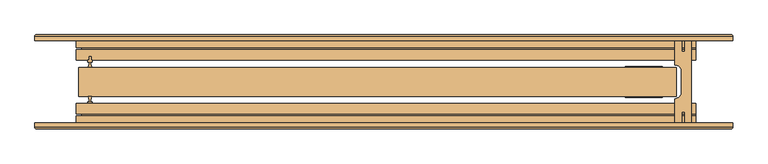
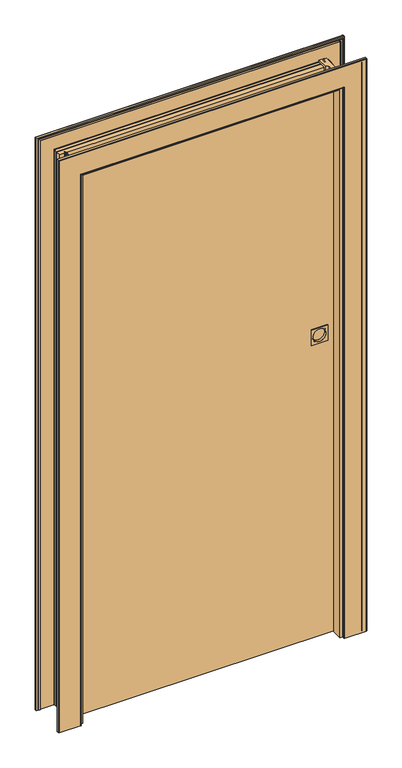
"""IFC4 building model written with IfcOpenShell, lengths in millimetres: door geometry, DoorInternal_Barausse_Feel Plus Sliding wall-125+x : Int_Door_Barausse_Feel-Plus-Sliding_900x2000_Wall-125+x."""

from ifc_helpers import new_model, si_unit, point, frame, frame_2d, origin, origin_with_axes, place, context, project, spatial, polyline, circle_curve, ellipse_curve, trimmed, segment, composite_curve, outline, extrude, faceted_brep, source, transform, mapped, element, save
from ifc_brep_helpers import plane_surface, cylinder_surface, revolved_surface, advanced_brep


def door_cd230160(model_context):
    return source(origin(), model_context, "Body", "SolidModel", [
        advanced_brep(
        [(375.219, -23.7, 1100.0), (419.719, -23.7, 1100.0), (419.719, -14.7, 1100.0), (375.219, -14.7, 1100.0), (373.719, -22.2, 1100.0), (421.219, -22.2, 1100.0), (421.219, -11.7, 1100.0), (373.719, -11.7, 1100.0), (375.219, -13.2, 1100.0), (419.719, -13.2, 1100.0), (419.719, -11.7, 1100.0), (375.219, -11.7, 1100.0), (425.719, -22.2, 1071.75), (369.219, -22.2, 1071.75), (369.219, -22.2, 1128.25), (425.719, -22.2, 1128.25), (369.219, -23.7, 1071.75), (369.219, -23.7, 1128.25), (425.719, -23.7, 1128.25), (425.719, -23.7, 1071.75)],
        [
            (0, 1, circle_curve(frame((397.469, -23.7, 1100.0), z_axis=(0.0, -1.0, 0.0), x_axis=(-1.0, 0.0, 0.0)), 22.25)),
            (1, 2),
            (2, 3, circle_curve(frame((397.469, -14.7, 1100.0), z_axis=(0.0, 1.0, 0.0), x_axis=(-1.0, 0.0, 0.0)), 22.25)),
            (3, 0),
            (4, 5, circle_curve(frame((397.469, -22.2, 1100.0), z_axis=(0.0, 1.0, 0.0), x_axis=(-1.0, 0.0, 0.0)), 23.75)),
            (5, 6),
            (6, 7, circle_curve(frame((397.469, -11.7, 1100.0), z_axis=(0.0, -1.0, 0.0), x_axis=(-1.0, 0.0, 0.0)), 23.75)),
            (7, 4),
            (8, 9, circle_curve(frame((397.469, -13.2, 1100.0), z_axis=(0.0, -1.0, 0.0), x_axis=(-1.0, 0.0, 0.0)), 22.25)),
            (9, 10),
            (10, 11, circle_curve(frame((397.469, -11.7, 1100.0), z_axis=(0.0, 1.0, 0.0), x_axis=(-1.0, 0.0, 0.0)), 22.25)),
            (11, 8),
            (8, 9, circle_curve(frame((397.469, -13.2, 1100.0), z_axis=(0.0, 1.0, 0.0), x_axis=(-1.0, 0.0, 0.0)), 22.25)),
            (11, 10, circle_curve(frame((397.469, -11.7, 1100.0), z_axis=(0.0, 1.0, 0.0), x_axis=(-1.0, 0.0, 0.0)), 22.25)),
            (6, 7, circle_curve(frame((397.469, -11.7, 1100.0), z_axis=(0.0, 1.0, 0.0), x_axis=(-1.0, 0.0, 0.0)), 23.75)),
            (5, 4, circle_curve(frame((397.469, -22.2, 1100.0), z_axis=(0.0, 1.0, 0.0), x_axis=(-1.0, 0.0, 0.0)), 23.75)),
            (12, 13),
            (13, 14),
            (14, 15),
            (15, 12),
            (16, 17),
            (17, 14),
            (13, 16),
            (17, 18),
            (18, 15),
            (18, 19),
            (19, 12),
            (19, 16),
            (2, 3, circle_curve(frame((397.469, -14.7, 1100.0), z_axis=(0.0, -1.0, 0.0), x_axis=(-1.0, 0.0, 0.0)), 22.25)),
            (1, 0, circle_curve(frame((397.469, -23.7, 1100.0), z_axis=(0.0, -1.0, 0.0), x_axis=(-1.0, 0.0, 0.0)), 22.25)),
        ],
        [
            revolved_surface(polyline([(375.219, -14.7, 1100.0), (375.219, -23.7, 1100.0)]), (397.469, -13.2, 1100.0), (0.0, 1.0, 0.0)),
            cylinder_surface(frame((397.469, -13.2, 1100.0), z_axis=(0.0, 1.0, 0.0), x_axis=(-1.0, 0.0, 0.0)), 23.75),
            revolved_surface(polyline([(375.219, -11.7, 1100.0), (375.219, -13.2, 1100.0)]), (397.469, -13.2, 1100.0), (0.0, 1.0, 0.0)),
            plane_surface(frame((397.469, -13.2, 1100.0), z_axis=(0.0, 1.0, 0.0), x_axis=(-1.0, 0.0, 0.0))),
            plane_surface(frame((373.719, -11.7, 1100.0), z_axis=(0.0, 1.0, 0.0), x_axis=(-1.0, 0.0, 0.0))),
            plane_surface(frame((369.219, -22.2, 1100.0), z_axis=(0.0, 1.0, 0.0), x_axis=(-1.0, 0.0, 0.0))),
            plane_surface(frame((369.219, 57.7030663, 1071.75), z_axis=(-1.0, 0.0, 0.0), x_axis=(0.0, -1.0, 0.0))),
            plane_surface(frame((425.719, 57.7030663, 1128.25), z_axis=(0.0, 0.0, 1.0), x_axis=(0.0, 1.0, 0.0))),
            plane_surface(frame((425.719, 57.7030663, 1071.75), z_axis=(1.0, 0.0, 0.0), x_axis=(0.0, 1.0, 0.0))),
            plane_surface(frame((425.719, 57.7030663, 1071.75), z_axis=(0.0, 0.0, -1.0), x_axis=(0.0, -1.0, 0.0))),
            plane_surface(frame((397.469, -14.7, 1100.0), z_axis=(0.0, -1.0, 0.0), x_axis=(1.0, 0.0, 0.0))),
            plane_surface(frame((375.219, -23.7, 1100.0), z_axis=(0.0, -1.0, 0.0), x_axis=(1.0, 0.0, 0.0))),
        ],
        [
            (0, [[1, 2, 3, 4]]),
            (1, [[5, 6, 7, 8]]),
            (2, [[9, 10, 11, 12]]),
            (3, [[13, -9]]),
            (2, [[-10, -13, -12, 14]]),
            (4, [[-7, 15], [-14, -11]]),
            (1, [[-6, 16, -8, -15]]),
            (5, [[17, 18, 19, 20], [-5, -16]]),
            (6, [[21, 22, -18, 23]]),
            (7, [[24, 25, -19, -22]]),
            (8, [[-25, 26, 27, -20]]),
            (9, [[28, -23, -17, -27]]),
            (10, [[29, -3]]),
            (0, [[-2, 30, -4, -29]]),
            (11, [[-26, -24, -21, -28], [-30, -1]]),
        ],
    ),
        advanced_brep(
        [(419.719, 23.7, 1100.0), (375.219, 23.7, 1100.0), (375.219, 14.7, 1100.0), (419.719, 14.7, 1100.0), (421.219, 22.2, 1100.0), (373.719, 22.2, 1100.0), (373.719, 11.7, 1100.0), (421.219, 11.7, 1100.0), (419.719, 13.2, 1100.0), (375.219, 13.2, 1100.0), (375.219, 11.7, 1100.0), (419.719, 11.7, 1100.0), (369.219, 22.2, 1071.75), (425.719, 22.2, 1071.75), (425.719, 22.2, 1128.25), (369.219, 22.2, 1128.25), (425.719, 23.7, 1071.75), (425.719, 23.7, 1128.25), (369.219, 23.7, 1128.25), (369.219, 23.7, 1071.75)],
        [
            (0, 1, circle_curve(frame((397.469, 23.7, 1100.0), z_axis=(0.0, 1.0, 0.0), x_axis=(1.0, 0.0, 0.0)), 22.25)),
            (1, 2),
            (2, 3, circle_curve(frame((397.469, 14.7, 1100.0), z_axis=(0.0, -1.0, 0.0), x_axis=(1.0, 0.0, 0.0)), 22.25)),
            (3, 0),
            (4, 5, circle_curve(frame((397.469, 22.2, 1100.0), z_axis=(0.0, -1.0, 0.0), x_axis=(1.0, 0.0, 0.0)), 23.75)),
            (5, 6),
            (6, 7, circle_curve(frame((397.469, 11.7, 1100.0), z_axis=(0.0, 1.0, 0.0), x_axis=(1.0, 0.0, 0.0)), 23.75)),
            (7, 4),
            (8, 9, circle_curve(frame((397.469, 13.2, 1100.0), z_axis=(0.0, 1.0, 0.0), x_axis=(1.0, 0.0, 0.0)), 22.25)),
            (9, 10),
            (10, 11, circle_curve(frame((397.469, 11.7, 1100.0), z_axis=(0.0, -1.0, 0.0), x_axis=(1.0, 0.0, 0.0)), 22.25)),
            (11, 8),
            (8, 9, circle_curve(frame((397.469, 13.2, 1100.0), z_axis=(0.0, -1.0, 0.0), x_axis=(1.0, 0.0, 0.0)), 22.25)),
            (11, 10, circle_curve(frame((397.469, 11.7, 1100.0), z_axis=(0.0, -1.0, 0.0), x_axis=(1.0, 0.0, 0.0)), 22.25)),
            (6, 7, circle_curve(frame((397.469, 11.7, 1100.0), z_axis=(0.0, -1.0, 0.0), x_axis=(1.0, 0.0, 0.0)), 23.75)),
            (5, 4, circle_curve(frame((397.469, 22.2, 1100.0), z_axis=(0.0, -1.0, 0.0), x_axis=(1.0, 0.0, 0.0)), 23.75)),
            (12, 13),
            (13, 14),
            (14, 15),
            (15, 12),
            (16, 17),
            (17, 14),
            (13, 16),
            (17, 18),
            (18, 15),
            (18, 19),
            (19, 12),
            (19, 16),
            (2, 3, circle_curve(frame((397.469, 14.7, 1100.0), z_axis=(0.0, 1.0, 0.0), x_axis=(1.0, 0.0, 0.0)), 22.25)),
            (1, 0, circle_curve(frame((397.469, 23.7, 1100.0), z_axis=(0.0, 1.0, 0.0), x_axis=(1.0, 0.0, 0.0)), 22.25)),
        ],
        [
            revolved_surface(polyline([(419.719, 14.7, 1100.0), (419.719, 23.7, 1100.0)]), (397.469, 13.2, 1100.0), (0.0, -1.0, 0.0)),
            cylinder_surface(frame((397.469, 13.2, 1100.0), z_axis=(0.0, -1.0, 0.0), x_axis=(1.0, 0.0, 0.0)), 23.75),
            revolved_surface(polyline([(419.719, 11.7, 1100.0), (419.719, 13.2, 1100.0)]), (397.469, 13.2, 1100.0), (0.0, -1.0, 0.0)),
            plane_surface(frame((397.469, 13.2, 1100.0), z_axis=(0.0, -1.0, 0.0), x_axis=(1.0, 0.0, 0.0))),
            plane_surface(frame((421.219, 11.7, 1100.0), z_axis=(0.0, -1.0, 0.0), x_axis=(1.0, 0.0, 0.0))),
            plane_surface(frame((425.719, 22.2, 1100.0), z_axis=(0.0, -1.0, 0.0), x_axis=(1.0, 0.0, 0.0))),
            plane_surface(frame((425.719, -57.7030663, 1071.75), z_axis=(1.0, 0.0, 0.0), x_axis=(0.0, 1.0, 0.0))),
            plane_surface(frame((369.219, -57.7030663, 1128.25), z_axis=(0.0, 0.0, 1.0), x_axis=(0.0, -1.0, 0.0))),
            plane_surface(frame((369.219, -57.7030663, 1071.75), z_axis=(-1.0, 0.0, 0.0), x_axis=(0.0, -1.0, 0.0))),
            plane_surface(frame((369.219, -57.7030663, 1071.75), z_axis=(0.0, 0.0, -1.0), x_axis=(0.0, 1.0, 0.0))),
            plane_surface(frame((397.469, 14.7, 1100.0), z_axis=(0.0, 1.0, 0.0), x_axis=(-1.0, 0.0, 0.0))),
            plane_surface(frame((419.719, 23.7, 1100.0), z_axis=(0.0, 1.0, 0.0), x_axis=(-1.0, 0.0, 0.0))),
        ],
        [
            (0, [[1, 2, 3, 4]]),
            (1, [[5, 6, 7, 8]]),
            (2, [[9, 10, 11, 12]]),
            (3, [[13, -9]]),
            (2, [[-10, -13, -12, 14]]),
            (4, [[-7, 15], [-14, -11]]),
            (1, [[-6, 16, -8, -15]]),
            (5, [[17, 18, 19, 20], [-5, -16]]),
            (6, [[21, 22, -18, 23]]),
            (7, [[24, 25, -19, -22]]),
            (8, [[-25, 26, 27, -20]]),
            (9, [[28, -23, -17, -27]]),
            (10, [[29, -3]]),
            (0, [[-2, 30, -4, -29]]),
            (11, [[-26, -24, -21, -28], [-30, -1]]),
        ],
    ),
        extrude(outline(polyline([(-450.35, -39.0000026), (-450.35, -33.0000026), (-452.35, -33.0000026), (-452.35, -30.5000026), (-449.1657895, -30.5000026), (-451.6289478, -22.7000013), (-446.0710522, -22.7000013), (-448.5342105, -30.5000026), (-445.35, -30.5000026), (-445.35, -33.0000026), (-447.35, -33.0000026), (-447.35, -39.0000026), (-450.35, -39.0000026)])), origin_with_axes(), (0.0, 0.0, 1.0), 2003.5),
        extrude(outline(polyline([(-447.35, 39.0), (-447.35, 33.0), (-445.35, 33.0), (-445.35, 30.5), (-448.5342105, 30.5), (-446.0710522, 22.6999987), (-451.6289478, 22.6999987), (-449.1657895, 30.5), (-452.35, 30.5), (-452.35, 33.0), (-450.35, 33.0), (-450.35, 39.0), (-447.35, 39.0)])), origin_with_axes(), (0.0, 0.0, 1.0), 2028.5),
        advanced_brep(
        [(-531.1764934, -71.778125, 0.0), (-533.1764934, -69.778125, 0.0), (-533.1764934, -62.578125, 0.0), (-529.1764934, -62.578125, 0.0), (-529.1764934, -65.078125, 0.0), (-525.3764934, -65.078125, 0.0), (-525.3764934, -62.578125, 0.0), (-520.1764934, -62.578125, 0.0), (-519.1764934, -63.578125, 0.0), (-472.1764934, -63.578125, 0.0), (-471.1764934, -62.578125, 0.0), (-459.1764934, -62.578125, 0.0), (-459.1764934, -57.5000026, 0.0), (-455.1764934, -57.5000026, 0.0), (-455.1764934, -69.778125, 0.0), (-457.1764934, -71.778125, 0.0), (-531.1764934, -71.778125, 2089.8264934), (-533.1764934, -69.778125, 2091.8264934), (-533.1764934, -62.578125, 2091.8264934), (533.1764934, -62.578125, 2091.8264934), (533.1764934, -62.578125, 0.0), (529.1764934, -62.578125, 0.0), (529.1764934, -62.578125, 2087.8264934), (-529.1764934, -62.578125, 2087.8264934), (-529.1764934, -65.078125, 2087.8264934), (529.1764934, -65.078125, 2087.8264934), (529.1764934, -65.078125, 0.0), (525.3764934, -65.078125, 0.0), (525.3764934, -65.078125, 2084.0264934), (-525.3764934, -65.078125, 2084.0264934), (-525.3764934, -62.578125, 2084.0264934), (525.3764934, -62.578125, 2084.0264934), (525.3764934, -62.578125, 0.0), (520.1764934, -62.578125, 0.0), (520.1764934, -62.578125, 2078.8264934), (-520.1764934, -62.578125, 2078.8264934), (-519.1764934, -63.578125, 2077.8264934), (519.1764934, -63.578125, 2077.8264934), (519.1764934, -63.578125, 0.0), (472.1764934, -63.578125, 0.0), (472.1764934, -63.578125, 2030.8264934), (-472.1764934, -63.578125, 2030.8264934), (-471.1764934, -62.578125, 2029.8264934), (471.1764934, -62.578125, 2029.8264934), (471.1764934, -62.578125, 0.0), (459.1764934, -62.578125, 0.0), (459.1764934, -62.578125, 2017.8264934), (-459.1764934, -62.578125, 2017.8264934), (-459.1764934, -57.5000026, 2017.8264934), (459.1764934, -57.5000026, 2017.8264934), (459.1764934, -57.5000026, 0.0), (455.1764934, -57.5000026, 0.0), (455.1764934, -57.5000026, 2013.8264934), (-455.1764934, -57.5000026, 2013.8264934), (-455.1764934, -69.778125, 2013.8264934), (-457.1764934, -71.778125, 2015.8264934), (457.1764934, -71.778125, 2015.8264934), (457.1764934, -71.778125, 0.0), (531.1764934, -71.778125, 0.0), (531.1764934, -71.778125, 2089.8264934), (533.1764934, -69.778125, 2091.8264934), (533.1764934, -69.778125, 0.0), (455.1764934, -69.778125, 0.0), (455.1764934, -69.778125, 2013.8264934)],
        [
            (0, 1, circle_curve(frame((-531.1764934, -69.778125, 0.0), z_axis=(0.0, 0.0, -1.0), x_axis=(0.0, -1.0, 0.0)), 2.0)),
            (1, 2),
            (2, 3),
            (3, 4),
            (4, 5),
            (5, 6),
            (6, 7),
            (7, 8, circle_curve(frame((-519.1764934, -62.578125, 0.0), z_axis=(0.0, 0.0, 1.0), x_axis=(0.0, -1.0, 0.0)), 1.0)),
            (8, 9),
            (9, 10, circle_curve(frame((-472.1764934, -62.578125, 0.0), z_axis=(0.0, 0.0, 1.0), x_axis=(0.0, -1.0, 0.0)), 1.0)),
            (10, 11),
            (11, 12),
            (12, 13),
            (13, 14),
            (14, 15, circle_curve(frame((-457.1764934, -69.778125, 0.0), z_axis=(0.0, 0.0, -1.0), x_axis=(0.0, -1.0, 0.0)), 2.0)),
            (15, 0),
            (0, 16),
            (16, 17, ellipse_curve(frame((-531.1764934, -69.778125, 2089.8264934), z_axis=(-0.7071067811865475, 0.0, -0.7071067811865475), x_axis=(0.7071067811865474, 0.0, -0.7071067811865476)), 2.8284271, 2.0)),
            (17, 1),
            (17, 18),
            (18, 2),
            (18, 19),
            (19, 20),
            (20, 21),
            (21, 22),
            (22, 23),
            (23, 3),
            (23, 24),
            (24, 4),
            (24, 25),
            (25, 26),
            (26, 27),
            (27, 28),
            (28, 29),
            (29, 5),
            (29, 30),
            (30, 6),
            (30, 31),
            (31, 32),
            (32, 33),
            (33, 34),
            (34, 35),
            (35, 7),
            (35, 36, ellipse_curve(frame((-519.1764934, -62.578125, 2077.8264934), z_axis=(0.7071067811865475, 0.0, 0.7071067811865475), x_axis=(-0.7071067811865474, 0.0, 0.7071067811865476)), 1.4142136, 1.0)),
            (36, 8),
            (36, 37),
            (37, 38),
            (38, 39),
            (39, 40),
            (40, 41),
            (41, 9),
            (41, 42, ellipse_curve(frame((-472.1764934, -62.578125, 2030.8264934), z_axis=(0.7071067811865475, 0.0, 0.7071067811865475), x_axis=(-0.7071067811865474, 0.0, 0.7071067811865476)), 1.4142136, 1.0)),
            (42, 10),
            (42, 43),
            (43, 44),
            (44, 45),
            (45, 46),
            (46, 47),
            (47, 11),
            (47, 48),
            (48, 12),
            (48, 49),
            (49, 50),
            (50, 51),
            (51, 52),
            (52, 53),
            (53, 13),
            (53, 54),
            (54, 14),
            (54, 55, ellipse_curve(frame((-457.1764934, -69.778125, 2015.8264934), z_axis=(-0.7071067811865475, 0.0, -0.7071067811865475), x_axis=(0.7071067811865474, 0.0, -0.7071067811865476)), 2.8284271, 2.0)),
            (55, 15),
            (55, 56),
            (56, 57),
            (57, 58),
            (58, 59),
            (59, 16),
            (19, 60),
            (60, 61),
            (61, 20),
            (57, 62, circle_curve(frame((457.1764934, -69.778125, 0.0), z_axis=(0.0, 0.0, -1.0), x_axis=(0.0, -1.0, 0.0)), 2.0)),
            (62, 51),
            (50, 45),
            (44, 39, circle_curve(frame((472.1764934, -62.578125, 0.0), z_axis=(0.0, 0.0, 1.0), x_axis=(0.0, -1.0, 0.0)), 1.0)),
            (38, 33, circle_curve(frame((519.1764934, -62.578125, 0.0), z_axis=(0.0, 0.0, 1.0), x_axis=(0.0, -1.0, 0.0)), 1.0)),
            (32, 27),
            (26, 21),
            (61, 58, circle_curve(frame((531.1764934, -69.778125, 0.0), z_axis=(0.0, 0.0, -1.0), x_axis=(0.0, -1.0, 0.0)), 2.0)),
            (25, 22),
            (31, 28),
            (37, 34, ellipse_curve(frame((519.1764934, -62.578125, 2077.8264934), z_axis=(-0.7071067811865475, 0.0, 0.7071067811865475), x_axis=(-0.7071067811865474, 0.0, -0.7071067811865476)), 1.4142136, 1.0)),
            (43, 40, ellipse_curve(frame((472.1764934, -62.578125, 2030.8264934), z_axis=(-0.7071067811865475, 0.0, 0.7071067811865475), x_axis=(-0.7071067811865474, 0.0, -0.7071067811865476)), 1.4142136, 1.0)),
            (49, 46),
            (56, 63, ellipse_curve(frame((457.1764934, -69.778125, 2015.8264934), z_axis=(0.7071067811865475, 0.0, -0.7071067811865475), x_axis=(0.7071067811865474, 0.0, 0.7071067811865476)), 2.8284271, 2.0)),
            (63, 62),
            (60, 59, ellipse_curve(frame((531.1764934, -69.778125, 2089.8264934), z_axis=(0.7071067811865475, 0.0, -0.7071067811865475), x_axis=(0.7071067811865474, 0.0, 0.7071067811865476)), 2.8284271, 2.0)),
            (63, 52),
            (60, 17),
            (54, 63),
        ],
        [
            plane_surface(frame((-476.55, -62.5, 0.0), z_axis=(0.0, 0.0, -1.0), x_axis=(1.0, 0.0, 0.0))),
            cylinder_surface(frame((-531.1764934, -69.778125, 0.0), z_axis=(0.0, 0.0, -1.0), x_axis=(0.0, -1.0, 0.0)), 2.0),
            plane_surface(frame((-533.1764934, -69.778125, 0.0), z_axis=(-1.0, 0.0, 0.0), x_axis=(0.0, 0.0, 1.0))),
            plane_surface(frame((-533.1764934, -62.578125, 0.0), z_axis=(0.0, 1.0, 0.0), x_axis=(0.0, 0.0, 1.0))),
            plane_surface(frame((-529.1764934, -62.578125, 0.0), z_axis=(1.0, 0.0, 0.0), x_axis=(0.0, 0.0, 1.0))),
            plane_surface(frame((-529.1764934, -65.078125, 0.0), z_axis=(0.0, 1.0, 0.0), x_axis=(0.0, 0.0, 1.0))),
            plane_surface(frame((-525.3764934, -65.078125, 0.0), z_axis=(-1.0, 0.0, 0.0), x_axis=(0.0, 0.0, 1.0))),
            plane_surface(frame((-525.3764934, -62.578125, 0.0), z_axis=(0.0, 1.0, 0.0), x_axis=(0.0, 0.0, 1.0))),
            revolved_surface(polyline([(-519.1764934, -63.578125, 2078.8264934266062), (-519.1764934, -63.578125, 0.0)]), (-519.1764934, -62.578125, 0.0), (0.0, 0.0, 1.0)),
            plane_surface(frame((-519.1764934, -63.578125, 0.0), z_axis=(0.0, 1.0, 0.0), x_axis=(0.0, 0.0, 1.0))),
            revolved_surface(polyline([(-472.1764934, -63.578125, 2031.826493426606), (-472.1764934, -63.578125, 0.0)]), (-472.1764934, -62.578125, 0.0), (0.0, 0.0, 1.0)),
            plane_surface(frame((-471.1764934, -62.578125, 0.0), z_axis=(0.0, 1.0, 0.0), x_axis=(0.0, 0.0, 1.0))),
            plane_surface(frame((-459.1764934, -62.578125, 0.0), z_axis=(-1.0, 0.0, 0.0), x_axis=(0.0, 0.0, 1.0))),
            plane_surface(frame((-459.1764934, -57.5000026, 0.0), z_axis=(0.0, 1.0, 0.0), x_axis=(0.0, 0.0, 1.0))),
            plane_surface(frame((-455.1764934, -57.5000026, 0.0), z_axis=(1.0, 0.0, 0.0), x_axis=(0.0, 0.0, 1.0))),
            cylinder_surface(frame((-457.1764934, -69.778125, 0.0), z_axis=(0.0, 0.0, -1.0), x_axis=(0.0, -1.0, 0.0)), 2.0),
            plane_surface(frame((-457.1764934, -71.778125, 0.0), z_axis=(0.0, -1.0, 0.0), x_axis=(0.0, 0.0, 1.0))),
            plane_surface(frame((533.1764934, -69.778125, 2091.8264934), z_axis=(1.0, 0.0, 0.0), x_axis=(0.0, 0.0, -1.0))),
            plane_surface(frame((476.55, -62.5, 0.0), z_axis=(0.0, 0.0, -1.0), x_axis=(-1.0, 0.0, 0.0))),
            plane_surface(frame((529.1764934, -62.578125, 2087.8264934), z_axis=(-1.0, 0.0, 0.0), x_axis=(0.0, 0.0, -1.0))),
            plane_surface(frame((525.3764934, -65.078125, 2084.0264934), z_axis=(1.0, 0.0, 0.0), x_axis=(0.0, 0.0, -1.0))),
            revolved_surface(polyline([(519.1764934, -63.578125, 0.0), (519.1764934, -63.578125, 2078.8264934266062)]), (519.1764934, -62.578125, 2035.2), (0.0, 0.0, -1.0)),
            revolved_surface(polyline([(472.1764934, -63.578125, 0.0), (472.1764934, -63.578125, 2031.826493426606)]), (472.1764934, -62.578125, 2035.2), (0.0, 0.0, -1.0)),
            plane_surface(frame((459.1764934, -62.578125, 2017.8264934), z_axis=(1.0, 0.0, 0.0), x_axis=(0.0, 0.0, -1.0))),
            cylinder_surface(frame((457.1764934, -69.778125, 2035.2), z_axis=(0.0, 0.0, 1.0), x_axis=(0.0, -1.0, 0.0)), 2.0),
            cylinder_surface(frame((531.1764934, -69.778125, 2035.2), z_axis=(0.0, 0.0, 1.0), x_axis=(0.0, -1.0, 0.0)), 2.0),
            plane_surface(frame((455.1764934, -57.5000026, 2013.8264934), z_axis=(-1.0, 0.0, 0.0), x_axis=(0.0, 0.0, -1.0))),
            cylinder_surface(frame((-476.55, -69.778125, 2089.8264934), z_axis=(-1.0, 0.0, 0.0), x_axis=(0.0, -1.0, 0.0)), 2.0),
            plane_surface(frame((-533.1764934, -69.778125, 2091.8264934), z_axis=(0.0, 0.0, 1.0), x_axis=(1.0, 0.0, 0.0))),
            plane_surface(frame((-529.1764934, -62.578125, 2087.8264934), z_axis=(0.0, 0.0, -1.0), x_axis=(1.0, 0.0, 0.0))),
            plane_surface(frame((-525.3764934, -65.078125, 2084.0264934), z_axis=(0.0, 0.0, 1.0), x_axis=(1.0, 0.0, 0.0))),
            revolved_surface(polyline([(520.1764934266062, -63.578125, 2077.8264934), (-520.1764934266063, -63.578125, 2077.8264934)]), (-476.55, -62.578125, 2077.8264934), (1.0, 0.0, 0.0)),
            revolved_surface(polyline([(473.1764934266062, -63.578125, 2030.8264934), (-473.17649342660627, -63.578125, 2030.8264934)]), (-476.55, -62.578125, 2030.8264934), (1.0, 0.0, 0.0)),
            plane_surface(frame((-459.1764934, -62.578125, 2017.8264934), z_axis=(0.0, 0.0, 1.0), x_axis=(1.0, 0.0, 0.0))),
            cylinder_surface(frame((-476.55, -69.778125, 2015.8264934), z_axis=(-1.0, 0.0, 0.0), x_axis=(0.0, -1.0, 0.0)), 2.0),
            plane_surface(frame((-455.1764934, -57.5000026, 2013.8264934), z_axis=(0.0, 0.0, -1.0), x_axis=(1.0, 0.0, 0.0))),
        ],
        [
            (0, [[1, 2, 3, 4, 5, 6, 7, 8, 9, 10, 11, 12, 13, 14, 15, 16]]),
            (1, [[-1, 17, 18, 19]]),
            (2, [[-2, -19, 20, 21]]),
            (3, [[-3, -21, 22, 23, 24, 25, 26, 27]]),
            (4, [[-4, -27, 28, 29]]),
            (5, [[-5, -29, 30, 31, 32, 33, 34, 35]]),
            (6, [[-6, -35, 36, 37]]),
            (7, [[-7, -37, 38, 39, 40, 41, 42, 43]]),
            (8, [[-8, -43, 44, 45]]),
            (9, [[-9, -45, 46, 47, 48, 49, 50, 51]]),
            (10, [[-10, -51, 52, 53]]),
            (11, [[-11, -53, 54, 55, 56, 57, 58, 59]]),
            (12, [[-12, -59, 60, 61]]),
            (13, [[-13, -61, 62, 63, 64, 65, 66, 67]]),
            (14, [[-14, -67, 68, 69]]),
            (15, [[-15, -69, 70, 71]]),
            (16, [[-16, -71, 72, 73, 74, 75, 76, -17]]),
            (17, [[77, 78, 79, -23]]),
            (18, [[-74, 80, 81, -64, 82, -56, 83, -48, 84, -40, 85, -32, 86, -24, -79, 87]]),
            (19, [[88, -25, -86, -31]]),
            (20, [[89, -33, -85, -39]]),
            (21, [[90, -41, -84, -47]]),
            (22, [[91, -49, -83, -55]]),
            (23, [[92, -57, -82, -63]]),
            (24, [[93, 94, -80, -73]]),
            (25, [[95, -75, -87, -78]]),
            (26, [[96, -65, -81, -94]]),
            (27, [[-18, -76, -95, 97]]),
            (28, [[-20, -97, -77, -22]]),
            (29, [[-28, -26, -88, -30]]),
            (30, [[-36, -34, -89, -38]]),
            (31, [[-44, -42, -90, -46]]),
            (32, [[-52, -50, -91, -54]]),
            (33, [[-60, -58, -92, -62]]),
            (34, [[-70, 98, -93, -72]]),
            (35, [[-68, -66, -96, -98]]),
        ],
    ),
        extrude(outline(composite_curve([segment(trimmed(circle_curve(frame_2d((444.4431364, -15.0730687)), 10.8863828), [point((445.120582, -25.9383527))], [point((455.0463645, -17.5398242))], True, "CARTESIAN"), True, "CONTINUOUS"), segment(polyline([(455.0463645, -17.5398242), (455.0463645, 17.5398242)]), True, "CONTINUOUS"), segment(trimmed(circle_curve(frame_2d((444.3305175, 15.0511137)), 11.001048), [point((455.0463645, 17.5398242))], [point((445.120582, 26.0237549))], True, "CARTESIAN"), True, "CONTINUOUS"), segment(polyline([(445.120582, 26.0237549), (445.120582, 62.4660451), (455.1937641, 62.4660451), (455.1937641, 46.529227), (460.1500171, 46.529227), (460.1500171, 62.4660451), (470.1500075, 62.4660451), (470.1500075, -62.4317155), (460.1500171, -62.4317155), (460.1500171, -46.4707829), (455.1937641, -46.4707829), (455.1937641, -62.4317155), (445.120582, -62.4317155), (445.120582, -25.9383527)]), True, "CONTINUOUS")], self_intersect=False)), origin_with_axes(), (0.0, 0.0, 1.0), 2035.2),
        faceted_brep([(-455.049997, 62.5, 0.0), (-444.85, 62.5, 0.0), (-444.85, 33.0, 0.0), (-447.35, 33.0, 0.0), (-447.35, 39.4, 0.0), (-450.35, 39.4, 0.0), (-450.35, 33.0, 0.0), (-469.85, 33.0, 0.0), (-469.85, 49.4999983, 0.0), (-461.85, 49.4999983, 0.0), (-461.85, 52.4999983, 0.0), (-469.85, 52.4999983, 0.0), (-469.85, 62.5, 0.0), (-459.85, 62.5, 0.0), (-459.85, 57.5, 0.0), (-455.049997, 57.5, 0.0), (476.55, 62.5, 2013.699997), (476.55, 62.5, 2003.5), (-444.85, 62.5, 2003.5), (-455.049997, 62.5, 2013.699997), (-444.85, 33.0, 2003.5), (476.55, 33.0, 2003.5), (476.55, 33.0, 2006.0), (-447.35, 33.0, 2006.0), (-447.35, 39.4, 2006.0), (476.55, 39.4, 2006.0), (476.55, 39.4, 2009.0), (-450.35, 39.4, 2009.0), (-450.35, 33.0, 2009.0), (476.55, 33.0, 2009.0), (476.55, 33.0, 2028.5), (-469.85, 33.0, 2028.5), (-469.85, 49.4999983, 2028.5), (476.55, 49.4999983, 2028.5), (476.55, 49.4999983, 2020.5), (-461.85, 49.4999983, 2020.5), (-461.85, 52.4999983, 2020.5), (476.55, 52.4999983, 2020.5), (476.55, 52.4999983, 2028.5), (-469.85, 52.4999983, 2028.5), (-469.85, 62.5, 2028.5), (476.55, 62.5, 2028.5), (476.55, 62.5, 2018.5), (-459.85, 62.5, 2018.5), (-459.85, 57.5, 2018.5), (476.55, 57.5, 2018.5), (476.55, 57.5, 2013.699997), (-455.049997, 57.5, 2013.699997)], [[[0, 1, 2, 3, 4, 5, 6, 7, 8, 9, 10, 11, 12, 13, 14, 15]], [[16, 17, 18, 1, 0, 19]], [[18, 20, 2, 1]], [[21, 22, 23, 3, 2, 20]], [[23, 24, 4, 3]], [[25, 26, 27, 5, 4, 24]], [[27, 28, 6, 5]], [[29, 30, 31, 7, 6, 28]], [[31, 32, 8, 7]], [[33, 34, 35, 9, 8, 32]], [[35, 36, 10, 9]], [[37, 38, 39, 11, 10, 36]], [[39, 40, 12, 11]], [[41, 42, 43, 13, 12, 40]], [[43, 44, 14, 13]], [[45, 46, 47, 15, 14, 44]], [[47, 19, 0, 15]], [[16, 46, 45, 42, 41, 38, 37, 34, 33, 30, 29, 26, 25, 22, 21, 17]], [[46, 16, 19, 47]], [[42, 45, 44, 43]], [[38, 41, 40, 39]], [[34, 37, 36, 35]], [[30, 33, 32, 31]], [[26, 29, 28, 27]], [[22, 25, 24, 23]], [[17, 21, 20, 18]]]),
        faceted_brep([(-455.049997, -62.5000026, 0.0), (-455.049997, -57.5000026, 0.0), (-459.85, -57.5000026, 0.0), (-459.85, -62.5000026, 0.0), (-469.85, -62.5000026, 0.0), (-469.85, -52.5000009, 0.0), (-461.85, -52.5000009, 0.0), (-461.85, -49.5000009, 0.0), (-469.85, -49.5000009, 0.0), (-469.85, -33.0000026, 0.0), (-450.35, -33.0000026, 0.0), (-450.35, -39.4000026, 0.0), (-447.35, -39.4000026, 0.0), (-447.35, -33.0000026, 0.0), (-444.85, -33.0000026, 0.0), (-444.85, -62.5000026, 0.0), (-455.049997, -62.5000026, 2013.699997), (-455.049997, -57.5000026, 2013.699997), (476.55, -57.5000026, 2013.699997), (476.55, -57.5000026, 2018.5), (-459.85, -57.5000026, 2018.5), (-459.85, -62.5000026, 2018.5), (476.55, -62.5000026, 2018.5), (476.55, -62.5000026, 2028.5), (-469.85, -62.5000026, 2028.5), (-469.85, -52.5000009, 2028.5), (476.55, -52.5000009, 2028.5), (476.55, -52.5000009, 2020.5), (-461.85, -52.5000009, 2020.5), (-461.85, -49.5000009, 2020.5), (476.55, -49.5000009, 2020.5), (476.55, -49.5000009, 2028.5), (-469.85, -49.5000009, 2028.5), (-469.85, -33.0000026, 2028.5), (476.55, -33.0000026, 2028.5), (476.55, -33.0000026, 2009.0), (-450.35, -33.0000026, 2009.0), (-450.35, -39.4000026, 2009.0), (476.55, -39.4000026, 2009.0), (476.55, -39.4000026, 2006.0), (-447.35, -39.4000026, 2006.0), (-447.35, -33.0000026, 2006.0), (476.55, -33.0000026, 2006.0), (476.55, -33.0000026, 2003.5), (-444.85, -33.0000026, 2003.5), (-444.85, -62.5000026, 2003.5), (476.55, -62.5000026, 2003.5), (476.55, -62.5000026, 2013.699997)], [[[0, 1, 2, 3, 4, 5, 6, 7, 8, 9, 10, 11, 12, 13, 14, 15]], [[16, 17, 1, 0]], [[18, 19, 20, 2, 1, 17]], [[20, 21, 3, 2]], [[22, 23, 24, 4, 3, 21]], [[24, 25, 5, 4]], [[26, 27, 28, 6, 5, 25]], [[28, 29, 7, 6]], [[30, 31, 32, 8, 7, 29]], [[32, 33, 9, 8]], [[34, 35, 36, 10, 9, 33]], [[36, 37, 11, 10]], [[38, 39, 40, 12, 11, 37]], [[40, 41, 13, 12]], [[42, 43, 44, 14, 13, 41]], [[44, 45, 15, 14]], [[46, 47, 16, 0, 15, 45]], [[47, 46, 43, 42, 39, 38, 35, 34, 31, 30, 27, 26, 23, 22, 19, 18]], [[43, 46, 45, 44]], [[39, 42, 41, 40]], [[35, 38, 37, 36]], [[31, 34, 33, 32]], [[27, 30, 29, 28]], [[23, 26, 25, 24]], [[19, 22, 21, 20]], [[47, 18, 17, 16]]]),
        advanced_brep(
        [(531.1764934, 72.0125, 0.0), (533.1764934, 70.0125, 0.0), (533.1764934, 62.8125, 0.0), (529.1764934, 62.8125, 0.0), (529.1764934, 65.3125, 0.0), (525.3764934, 65.3125, 0.0), (525.3764934, 62.8125, 0.0), (520.1764934, 62.8125, 0.0), (519.1764934, 63.8125, 0.0), (472.1764934, 63.8125, 0.0), (471.1764934, 62.8125, 0.0), (459.1764934, 62.8125, 0.0), (459.1764934, 58.2053443, 0.0), (456.3764934, 58.2053443, 0.0), (455.206247, 59.3755907, 0.0), (455.1764934, 70.0125, 0.0), (457.1764934, 72.0125, 0.0), (531.1764934, 72.0125, 2089.8264934), (533.1764934, 70.0125, 2091.8264934), (533.1764934, 62.8125, 2091.8264934), (-533.1764934, 62.8125, 2091.8264934), (-533.1764934, 62.8125, 0.0), (-529.1764934, 62.8125, 0.0), (-529.1764934, 62.8125, 2087.8264934), (529.1764934, 62.8125, 2087.8264934), (529.1764934, 65.3125, 2087.8264934), (-529.1764934, 65.3125, 2087.8264934), (-529.1764934, 65.3125, 0.0), (-525.3764934, 65.3125, 0.0), (-525.3764934, 65.3125, 2084.0264934), (525.3764934, 65.3125, 2084.0264934), (525.3764934, 62.8125, 2084.0264934), (-525.3764934, 62.8125, 2084.0264934), (-525.3764934, 62.8125, 0.0), (-520.1764934, 62.8125, 0.0), (-520.1764934, 62.8125, 2078.8264934), (520.1764934, 62.8125, 2078.8264934), (519.1764934, 63.8125, 2077.8264934), (-519.1764934, 63.8125, 2077.8264934), (-519.1764934, 63.8125, 0.0), (-472.1764934, 63.8125, 0.0), (-472.1764934, 63.8125, 2030.8264934), (472.1764934, 63.8125, 2030.8264934), (471.1764934, 62.8125, 2029.8264934), (-471.1764934, 62.8125, 2029.8264934), (-471.1764934, 62.8125, 0.0), (-459.1764934, 62.8125, 0.0), (-459.1764934, 62.8125, 2017.8264934), (459.1764934, 62.8125, 2017.8264934), (459.1764934, 58.2053443, 2017.8264934), (-459.1764934, 58.2053443, 2017.8264934), (-459.1764934, 58.2053443, 0.0), (-456.3764934, 58.2053443, 0.0), (-456.3764934, 58.2053443, 2015.0264934), (456.3764934, 58.2053443, 2015.0264934), (455.206247, 59.3755907, 2013.856247), (455.1764934, 70.0125, 2013.8264934), (457.1764934, 72.0125, 2015.8264934), (-457.1764934, 72.0125, 2015.8264934), (-457.1764934, 72.0125, 0.0), (-531.1764934, 72.0125, 0.0), (-531.1764934, 72.0125, 2089.8264934), (-455.1764934, 70.0125, 0.0), (-455.206247, 59.3755907, 0.0), (-533.1764934, 70.0125, 0.0), (-455.1764934, 70.0125, 2013.8264934), (-455.206247, 59.3755907, 2013.856247), (-533.1764934, 70.0125, 2091.8264934)],
        [
            (0, 1, circle_curve(frame((531.1764934, 70.0125, 0.0), z_axis=(0.0, 0.0, -1.0), x_axis=(-1.0, 0.0, 0.0)), 2.0)),
            (1, 2),
            (2, 3),
            (3, 4),
            (4, 5),
            (5, 6),
            (6, 7),
            (7, 8, circle_curve(frame((519.1764934, 62.8125, 0.0), z_axis=(0.0, 0.0, 1.0), x_axis=(-1.0, 0.0, 0.0)), 1.0)),
            (8, 9),
            (9, 10, circle_curve(frame((472.1764934, 62.8125, 0.0), z_axis=(0.0, 0.0, 1.0), x_axis=(-1.0, 0.0, 0.0)), 1.0)),
            (10, 11),
            (11, 12),
            (12, 13),
            (13, 14),
            (14, 15),
            (15, 16, circle_curve(frame((457.1764934, 70.0125, 0.0), z_axis=(0.0, 0.0, -1.0), x_axis=(-1.0, 0.0, 0.0)), 2.0)),
            (16, 0),
            (0, 17),
            (17, 18, ellipse_curve(frame((531.1764934, 70.0125, 2089.8264934), z_axis=(0.7071067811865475, 0.0, -0.7071067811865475), x_axis=(-0.7071067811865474, 0.0, -0.7071067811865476)), 2.8284271, 2.0)),
            (18, 1),
            (18, 19),
            (19, 2),
            (19, 20),
            (20, 21),
            (21, 22),
            (22, 23),
            (23, 24),
            (24, 3),
            (24, 25),
            (25, 4),
            (25, 26),
            (26, 27),
            (27, 28),
            (28, 29),
            (29, 30),
            (30, 5),
            (30, 31),
            (31, 6),
            (31, 32),
            (32, 33),
            (33, 34),
            (34, 35),
            (35, 36),
            (36, 7),
            (36, 37, ellipse_curve(frame((519.1764934, 62.8125, 2077.8264934), z_axis=(-0.7071067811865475, 0.0, 0.7071067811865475), x_axis=(0.7071067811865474, 0.0, 0.7071067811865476)), 1.4142136, 1.0)),
            (37, 8),
            (37, 38),
            (38, 39),
            (39, 40),
            (40, 41),
            (41, 42),
            (42, 9),
            (42, 43, ellipse_curve(frame((472.1764934, 62.8125, 2030.8264934), z_axis=(-0.7071067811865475, 0.0, 0.7071067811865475), x_axis=(0.7071067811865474, 0.0, 0.7071067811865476)), 1.4142136, 1.0)),
            (43, 10),
            (43, 44),
            (44, 45),
            (45, 46),
            (46, 47),
            (47, 48),
            (48, 11),
            (48, 49),
            (49, 12),
            (49, 50),
            (50, 51),
            (51, 52),
            (52, 53),
            (53, 54),
            (54, 13),
            (54, 55),
            (55, 14),
            (55, 56),
            (56, 15),
            (56, 57, ellipse_curve(frame((457.1764934, 70.0125, 2015.8264934), z_axis=(0.7071067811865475, 0.0, -0.7071067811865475), x_axis=(-0.7071067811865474, 0.0, -0.7071067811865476)), 2.8284271, 2.0)),
            (57, 16),
            (57, 58),
            (58, 59),
            (59, 60),
            (60, 61),
            (61, 17),
            (59, 62, circle_curve(frame((-457.1764934, 70.0125, 0.0), z_axis=(0.0, 0.0, -1.0), x_axis=(1.0, 0.0, 0.0)), 2.0)),
            (62, 63),
            (63, 52),
            (51, 46),
            (45, 40, circle_curve(frame((-472.1764934, 62.8125, 0.0), z_axis=(0.0, 0.0, 1.0), x_axis=(1.0, 0.0, 0.0)), 1.0)),
            (39, 34, circle_curve(frame((-519.1764934, 62.8125, 0.0), z_axis=(0.0, 0.0, 1.0), x_axis=(1.0, 0.0, 0.0)), 1.0)),
            (33, 28),
            (27, 22),
            (21, 64),
            (64, 60, circle_curve(frame((-531.1764934, 70.0125, 0.0), z_axis=(0.0, 0.0, -1.0), x_axis=(1.0, 0.0, 0.0)), 2.0)),
            (58, 65, ellipse_curve(frame((-457.1764934, 70.0125, 2015.8264934), z_axis=(-0.7071067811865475, 0.0, -0.7071067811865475), x_axis=(-0.7071067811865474, 0.0, 0.7071067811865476)), 2.8284271, 2.0)),
            (65, 62),
            (65, 66),
            (66, 63),
            (66, 53),
            (50, 47),
            (44, 41, ellipse_curve(frame((-472.1764934, 62.8125, 2030.8264934), z_axis=(0.7071067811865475, 0.0, 0.7071067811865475), x_axis=(0.7071067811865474, 0.0, -0.7071067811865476)), 1.4142136, 1.0)),
            (38, 35, ellipse_curve(frame((-519.1764934, 62.8125, 2077.8264934), z_axis=(0.7071067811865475, 0.0, 0.7071067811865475), x_axis=(0.7071067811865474, 0.0, -0.7071067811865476)), 1.4142136, 1.0)),
            (32, 29),
            (26, 23),
            (20, 67),
            (67, 64),
            (67, 61, ellipse_curve(frame((-531.1764934, 70.0125, 2089.8264934), z_axis=(-0.7071067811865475, 0.0, -0.7071067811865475), x_axis=(-0.7071067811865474, 0.0, 0.7071067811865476)), 2.8284271, 2.0)),
            (67, 18),
            (66, 55),
            (65, 56),
        ],
        [
            plane_surface(frame((476.55, 62.5, 0.0), z_axis=(0.0, 0.0, -1.0), x_axis=(-1.0, 0.0, 0.0))),
            cylinder_surface(frame((531.1764934, 70.0125, 0.0), z_axis=(0.0, 0.0, -1.0), x_axis=(-1.0, 0.0, 0.0)), 2.0),
            plane_surface(frame((533.1764934, 70.0125, 0.0), z_axis=(1.0, 0.0, 0.0), x_axis=(0.0, 0.0, 1.0))),
            plane_surface(frame((533.1764934, 62.8125, 0.0), z_axis=(0.0, -1.0, 0.0), x_axis=(0.0, 0.0, 1.0))),
            plane_surface(frame((529.1764934, 62.8125, 0.0), z_axis=(-1.0, 0.0, 0.0), x_axis=(0.0, 0.0, 1.0))),
            plane_surface(frame((529.1764934, 65.3125, 0.0), z_axis=(0.0, -1.0, 0.0), x_axis=(0.0, 0.0, 1.0))),
            plane_surface(frame((525.3764934, 65.3125, 0.0), z_axis=(1.0, 0.0, 0.0), x_axis=(0.0, 0.0, 1.0))),
            plane_surface(frame((525.3764934, 62.8125, 0.0), z_axis=(0.0, -1.0, 0.0), x_axis=(0.0, 0.0, 1.0))),
            revolved_surface(polyline([(518.1764934, 62.8125, 2078.8264934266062), (518.1764934, 62.8125, 0.0)]), (519.1764934, 62.8125, 0.0), (0.0, 0.0, 1.0)),
            plane_surface(frame((519.1764934, 63.8125, 0.0), z_axis=(0.0, -1.0, 0.0), x_axis=(0.0, 0.0, 1.0))),
            revolved_surface(polyline([(471.1764934, 62.8125, 2031.826493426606), (471.1764934, 62.8125, 0.0)]), (472.1764934, 62.8125, 0.0), (0.0, 0.0, 1.0)),
            plane_surface(frame((471.1764934, 62.8125, 0.0), z_axis=(0.0, -1.0, 0.0), x_axis=(0.0, 0.0, 1.0))),
            plane_surface(frame((459.1764934, 62.8125, 0.0), z_axis=(1.0, 0.0, 0.0), x_axis=(0.0, 0.0, 1.0))),
            plane_surface(frame((459.1764934, 58.2053443, 0.0), z_axis=(0.0, -1.0, 0.0), x_axis=(0.0, 0.0, 1.0))),
            plane_surface(frame((456.3764934, 58.2053443, 0.0), z_axis=(-0.7071067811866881, -0.707106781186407, 0.0), x_axis=(0.0, 0.0, 1.0))),
            plane_surface(frame((455.206247, 59.3755907, 0.0), z_axis=(-0.999996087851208, -0.002797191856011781, 0.0), x_axis=(0.0, 0.0, 1.0))),
            cylinder_surface(frame((457.1764934, 70.0125, 0.0), z_axis=(0.0, 0.0, -1.0), x_axis=(-1.0, 0.0, 0.0)), 2.0),
            plane_surface(frame((457.1764934, 72.0125, 0.0), z_axis=(0.0, 1.0, 0.0), x_axis=(0.0, 0.0, 1.0))),
            plane_surface(frame((-476.55, 62.5, 0.0), z_axis=(0.0, 0.0, -1.0), x_axis=(1.0, 0.0, 0.0))),
            cylinder_surface(frame((-457.1764934, 70.0125, 2035.2), z_axis=(0.0, 0.0, 1.0), x_axis=(1.0, 0.0, 0.0)), 2.0),
            plane_surface(frame((-455.206247, 59.3755907, 2013.856247), z_axis=(0.999996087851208, -0.002797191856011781, 0.0), x_axis=(0.0, 0.0, -1.0))),
            plane_surface(frame((-456.3764934, 58.2053443, 2015.0264934), z_axis=(0.7071067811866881, -0.707106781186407, 0.0), x_axis=(0.0, 0.0, -1.0))),
            plane_surface(frame((-459.1764934, 62.8125, 2017.8264934), z_axis=(-1.0, 0.0, 0.0), x_axis=(0.0, 0.0, -1.0))),
            revolved_surface(polyline([(-471.1764934, 62.8125, 0.0), (-471.1764934, 62.8125, 2031.826493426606)]), (-472.1764934, 62.8125, 2035.2), (0.0, 0.0, -1.0)),
            revolved_surface(polyline([(-518.1764934, 62.8125, 0.0), (-518.1764934, 62.8125, 2078.8264934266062)]), (-519.1764934, 62.8125, 2035.2), (0.0, 0.0, -1.0)),
            plane_surface(frame((-525.3764934, 65.3125, 2084.0264934), z_axis=(-1.0, 0.0, 0.0), x_axis=(0.0, 0.0, -1.0))),
            plane_surface(frame((-529.1764934, 62.8125, 2087.8264934), z_axis=(1.0, 0.0, 0.0), x_axis=(0.0, 0.0, -1.0))),
            plane_surface(frame((-533.1764934, 70.0125, 2091.8264934), z_axis=(-1.0, 0.0, 0.0), x_axis=(0.0, 0.0, -1.0))),
            cylinder_surface(frame((-531.1764934, 70.0125, 2035.2), z_axis=(0.0, 0.0, 1.0), x_axis=(1.0, 0.0, 0.0)), 2.0),
            cylinder_surface(frame((476.55, 70.0125, 2089.8264934), z_axis=(1.0, 0.0, 0.0), x_axis=(0.0, 0.0, -1.0)), 2.0),
            plane_surface(frame((533.1764934, 70.0125, 2091.8264934), z_axis=(0.0, 0.0, 1.0), x_axis=(-1.0, 0.0, 0.0))),
            plane_surface(frame((529.1764934, 62.8125, 2087.8264934), z_axis=(0.0, 0.0, -1.0), x_axis=(-1.0, 0.0, 0.0))),
            plane_surface(frame((525.3764934, 65.3125, 2084.0264934), z_axis=(0.0, 0.0, 1.0), x_axis=(-1.0, 0.0, 0.0))),
            revolved_surface(polyline([(-520.1764934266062, 62.8125, 2076.8264934), (520.1764934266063, 62.8125, 2076.8264934)]), (476.55, 62.8125, 2077.8264934), (-1.0, 0.0, 0.0)),
            revolved_surface(polyline([(-473.1764934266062, 62.8125, 2029.8264934), (473.17649342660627, 62.8125, 2029.8264934)]), (476.55, 62.8125, 2030.8264934), (-1.0, 0.0, 0.0)),
            plane_surface(frame((459.1764934, 62.8125, 2017.8264934), z_axis=(0.0, 0.0, 1.0), x_axis=(-1.0, 0.0, 0.0))),
            plane_surface(frame((456.3764934, 58.2053443, 2015.0264934), z_axis=(0.0, -0.707106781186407, -0.7071067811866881), x_axis=(-1.0, 0.0, 0.0))),
            plane_surface(frame((455.206247, 59.3755907, 2013.856247), z_axis=(0.0, -0.002797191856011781, -0.999996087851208), x_axis=(-1.0, 0.0, 0.0))),
            cylinder_surface(frame((476.55, 70.0125, 2015.8264934), z_axis=(1.0, 0.0, 0.0), x_axis=(0.0, 0.0, -1.0)), 2.0),
        ],
        [
            (0, [[1, 2, 3, 4, 5, 6, 7, 8, 9, 10, 11, 12, 13, 14, 15, 16, 17]]),
            (1, [[-1, 18, 19, 20]]),
            (2, [[-2, -20, 21, 22]]),
            (3, [[-3, -22, 23, 24, 25, 26, 27, 28]]),
            (4, [[-4, -28, 29, 30]]),
            (5, [[-5, -30, 31, 32, 33, 34, 35, 36]]),
            (6, [[-6, -36, 37, 38]]),
            (7, [[-7, -38, 39, 40, 41, 42, 43, 44]]),
            (8, [[-8, -44, 45, 46]]),
            (9, [[-9, -46, 47, 48, 49, 50, 51, 52]]),
            (10, [[-10, -52, 53, 54]]),
            (11, [[-11, -54, 55, 56, 57, 58, 59, 60]]),
            (12, [[-12, -60, 61, 62]]),
            (13, [[-13, -62, 63, 64, 65, 66, 67, 68]]),
            (14, [[-14, -68, 69, 70]]),
            (15, [[-15, -70, 71, 72]]),
            (16, [[-16, -72, 73, 74]]),
            (17, [[-17, -74, 75, 76, 77, 78, 79, -18]]),
            (18, [[-77, 80, 81, 82, -65, 83, -57, 84, -49, 85, -41, 86, -33, 87, -25, 88, 89]]),
            (19, [[90, 91, -80, -76]]),
            (20, [[92, 93, -81, -91]]),
            (21, [[94, -66, -82, -93]]),
            (22, [[95, -58, -83, -64]]),
            (23, [[96, -50, -84, -56]]),
            (24, [[97, -42, -85, -48]]),
            (25, [[98, -34, -86, -40]]),
            (26, [[99, -26, -87, -32]]),
            (27, [[100, 101, -88, -24]]),
            (28, [[102, -78, -89, -101]]),
            (29, [[-19, -79, -102, 103]]),
            (30, [[-21, -103, -100, -23]]),
            (31, [[-29, -27, -99, -31]]),
            (32, [[-37, -35, -98, -39]]),
            (33, [[-45, -43, -97, -47]]),
            (34, [[-53, -51, -96, -55]]),
            (35, [[-61, -59, -95, -63]]),
            (36, [[-69, -67, -94, 104]]),
            (37, [[-71, -104, -92, 105]]),
            (38, [[-73, -105, -90, -75]]),
        ],
    ),
        extrude(outline(polyline([(2003.0, 447.469), (2003.0, -466.531), (0.0, -466.531), (0.0, 447.469), (2003.0, 447.469)]), holes=[composite_curve([segment(trimmed(circle_curve(frame_2d((1100.0, 397.469)), 25.0), [point((1100.0, 422.469))], [point((1100.0, 372.469))], True, "CARTESIAN"), True, "CONTINUOUS"), segment(trimmed(circle_curve(frame_2d((1100.0, 397.469)), 25.0), [point((1100.0, 372.469))], [point((1100.0, 422.469))], True, "CARTESIAN"), True, "CONTINUOUS")], self_intersect=False)]), frame((0.0, -22.2, 0.0), z_axis=(0.0, 1.0, 0.0), x_axis=(0.0, 0.0, 1.0)), (0.0, 0.0, 1.0), 44.4),
    ])


if __name__ == "__main__":
    model = new_model("IFC4")
    model_context = context("Model", 3, world=origin())
    ifc_project = project(units=[si_unit("LENGTHUNIT", "METRE", prefix="MILLI")], contexts=[model_context])
    site = spatial("IfcSite", under=ifc_project)
    building = spatial("IfcBuilding", under=site)
    placement = place(None, origin())
    door_shape = door_cd230160(model_context)
    element("IfcDoor", 1, ObjectType="DoorInternal_Barausse_Feel Plus Sliding wall-125+x : Int_Door_Barausse_Feel-Plus-Sliding_900x2000_Wall-125+x", at=placement, inside=building, context=model_context, shape_type="MappedRepresentation", body=[
        mapped(door_shape, transform((0.0, 0.0, 0.0), x_axis=(1.0, 0.0, 0.0), y_axis=(0.0, 1.0, 0.0), z_axis=(0.0, 0.0, 1.0))),
    ])
    save(model, "model.ifc")
